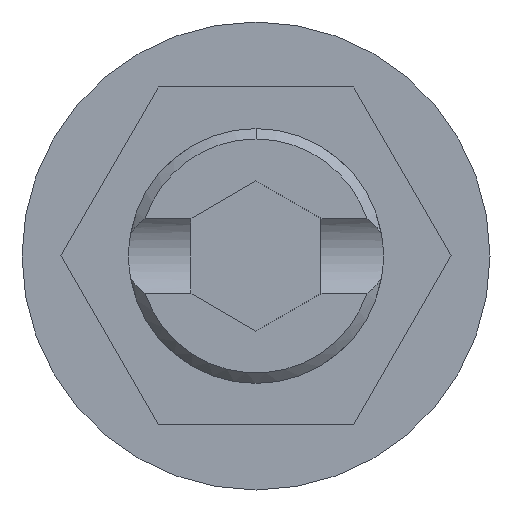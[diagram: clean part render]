
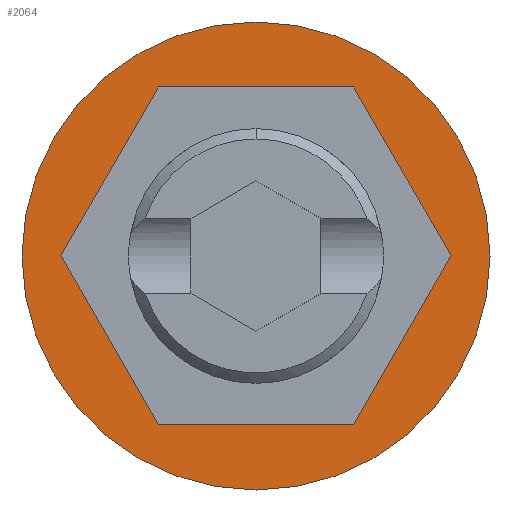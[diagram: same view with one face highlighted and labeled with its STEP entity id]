
A CAD part, front view. The second image highlights one B-rep face of the part: STEP entity #2064.
In plain terms, the highlighted planar face has unit normal (0, -1, 0).
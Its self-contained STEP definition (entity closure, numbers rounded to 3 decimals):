
#30 = CARTESIAN_POINT ( 'NONE',  ( 0., 0., 4.5 ) ) ;
#38 = CARTESIAN_POINT ( 'NONE',  ( -3.753, 0., 0. ) ) ;
#39 = ORIENTED_EDGE ( 'NONE', *, *, #1359, .T. ) ;
#72 = AXIS2_PLACEMENT_3D ( 'NONE', #871, #2053, #1048 ) ;
#132 = VECTOR ( 'NONE', #1717, 1000. ) ;
#136 = EDGE_LOOP ( 'NONE', ( #1331, #39 ) ) ;
#156 = VECTOR ( 'NONE', #1707, 1000. ) ;
#169 = VERTEX_POINT ( 'NONE', #1220 ) ;
#182 = LINE ( 'NONE', #1540, #156 ) ;
#193 = LINE ( 'NONE', #1137, #1934 ) ;
#212 = CARTESIAN_POINT ( 'NONE',  ( 3.753, 0., 0. ) ) ;
#230 = CARTESIAN_POINT ( 'NONE',  ( 1.876, 0., 3.25 ) ) ;
#362 = VECTOR ( 'NONE', #1325, 1000. ) ;
#379 = EDGE_CURVE ( 'NONE', #1806, #1346, #710, .T. ) ;
#384 = DIRECTION ( 'NONE',  ( -1., 0., 0. ) ) ;
#431 = CARTESIAN_POINT ( 'NONE',  ( 1.876, 0., 3.25 ) ) ;
#436 = DIRECTION ( 'NONE',  ( 1., 0., 0. ) ) ;
#474 = EDGE_CURVE ( 'NONE', #169, #2063, #1062, .T. ) ;
#526 = ORIENTED_EDGE ( 'NONE', *, *, #1173, .F. ) ;
#528 = CARTESIAN_POINT ( 'NONE',  ( 0., 0., 0. ) ) ;
#547 = ORIENTED_EDGE ( 'NONE', *, *, #2076, .F. ) ;
#550 = CIRCLE ( 'NONE', #72, 4.5 ) ;
#557 = DIRECTION ( 'NONE',  ( 0., -1., 0. ) ) ;
#586 = CARTESIAN_POINT ( 'NONE',  ( 3.753, 0., 0. ) ) ;
#625 = FACE_BOUND ( 'NONE', #2067, .T. ) ;
#661 = VERTEX_POINT ( 'NONE', #431 ) ;
#676 = FACE_OUTER_BOUND ( 'NONE', #136, .T. ) ;
#701 = ORIENTED_EDGE ( 'NONE', *, *, #1135, .F. ) ;
#710 = CIRCLE ( 'NONE', #1476, 4.5 ) ;
#871 = CARTESIAN_POINT ( 'NONE',  ( 0., 0., 0. ) ) ;
#878 = DIRECTION ( 'NONE',  ( 0., -1., 0. ) ) ;
#1011 = EDGE_CURVE ( 'NONE', #1768, #1432, #193, .T. ) ;
#1012 = VECTOR ( 'NONE', #1185, 1000. ) ;
#1037 = VECTOR ( 'NONE', #384, 1000. ) ;
#1048 = DIRECTION ( 'NONE',  ( 0., 0., -1. ) ) ;
#1062 = LINE ( 'NONE', #1685, #1012 ) ;
#1135 = EDGE_CURVE ( 'NONE', #1432, #1512, #2161, .T. ) ;
#1137 = CARTESIAN_POINT ( 'NONE',  ( -1.876, 0., -3.25 ) ) ;
#1173 = EDGE_CURVE ( 'NONE', #661, #169, #2104, .T. ) ;
#1180 = ORIENTED_EDGE ( 'NONE', *, *, #1802, .F. ) ;
#1185 = DIRECTION ( 'NONE',  ( -0.5, 0., -0.866 ) ) ;
#1209 = CARTESIAN_POINT ( 'NONE',  ( 0., 0., 0. ) ) ;
#1220 = CARTESIAN_POINT ( 'NONE',  ( -1.876, 0., 3.25 ) ) ;
#1238 = CARTESIAN_POINT ( 'NONE',  ( 1.876, 0., -3.25 ) ) ;
#1325 = DIRECTION ( 'NONE',  ( 0.5, 0., 0.866 ) ) ;
#1331 = ORIENTED_EDGE ( 'NONE', *, *, #379, .T. ) ;
#1346 = VERTEX_POINT ( 'NONE', #30 ) ;
#1359 = EDGE_CURVE ( 'NONE', #1346, #1806, #550, .T. ) ;
#1369 = CARTESIAN_POINT ( 'NONE',  ( -1.876, 0., -3.25 ) ) ;
#1374 = CARTESIAN_POINT ( 'NONE',  ( 0., 0., -4.5 ) ) ;
#1432 = VERTEX_POINT ( 'NONE', #1238 ) ;
#1476 = AXIS2_PLACEMENT_3D ( 'NONE', #1209, #557, #1788 ) ;
#1512 = VERTEX_POINT ( 'NONE', #586 ) ;
#1540 = CARTESIAN_POINT ( 'NONE',  ( -3.753, 0., 0. ) ) ;
#1652 = ORIENTED_EDGE ( 'NONE', *, *, #1011, .F. ) ;
#1685 = CARTESIAN_POINT ( 'NONE',  ( -1.876, 0., 3.25 ) ) ;
#1707 = DIRECTION ( 'NONE',  ( 0.5, 0., -0.866 ) ) ;
#1717 = DIRECTION ( 'NONE',  ( -0.5, 0., 0.866 ) ) ;
#1768 = VERTEX_POINT ( 'NONE', #1369 ) ;
#1788 = DIRECTION ( 'NONE',  ( 0., 0., -1. ) ) ;
#1802 = EDGE_CURVE ( 'NONE', #2063, #1768, #182, .T. ) ;
#1806 = VERTEX_POINT ( 'NONE', #1374 ) ;
#1880 = ORIENTED_EDGE ( 'NONE', *, *, #474, .F. ) ;
#1890 = PLANE ( 'NONE',  #1958 ) ;
#1934 = VECTOR ( 'NONE', #436, 1000. ) ;
#1958 = AXIS2_PLACEMENT_3D ( 'NONE', #528, #878, #2056 ) ;
#2024 = LINE ( 'NONE', #212, #132 ) ;
#2053 = DIRECTION ( 'NONE',  ( 0., -1., 0. ) ) ;
#2056 = DIRECTION ( 'NONE',  ( 0., 0., -1. ) ) ;
#2063 = VERTEX_POINT ( 'NONE', #38 ) ;
#2064 = ADVANCED_FACE ( 'NONE', ( #625, #676 ), #1890, .T. ) ;
#2067 = EDGE_LOOP ( 'NONE', ( #1652, #1180, #1880, #526, #547, #701 ) ) ;
#2076 = EDGE_CURVE ( 'NONE', #1512, #661, #2024, .T. ) ;
#2104 = LINE ( 'NONE', #230, #1037 ) ;
#2158 = CARTESIAN_POINT ( 'NONE',  ( 1.876, 0., -3.25 ) ) ;
#2161 = LINE ( 'NONE', #2158, #362 ) ;
